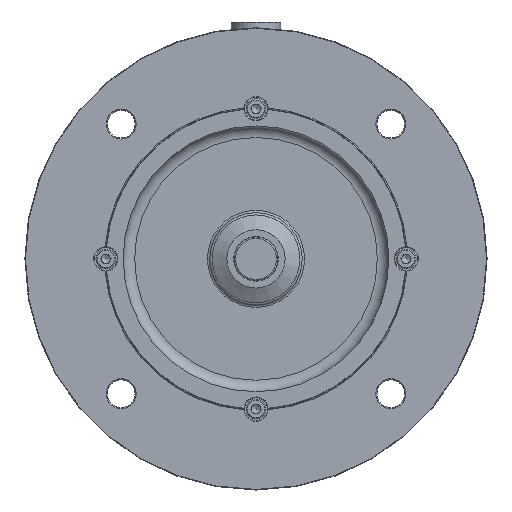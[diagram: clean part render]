
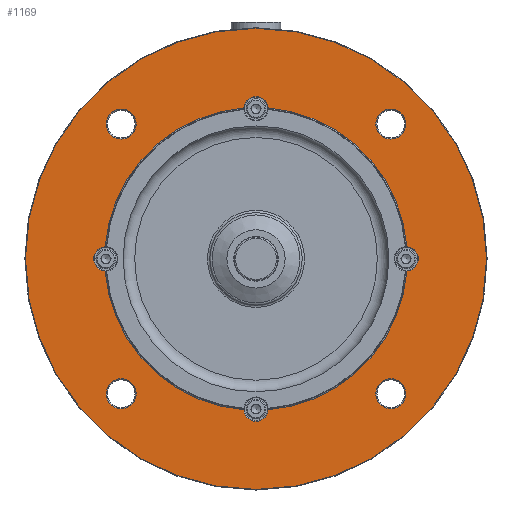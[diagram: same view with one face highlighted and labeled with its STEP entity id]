
A CAD part, front view. The second image highlights one B-rep face of the part: STEP entity #1169.
In plain terms, the highlighted planar face has unit normal (0, -1, 0).
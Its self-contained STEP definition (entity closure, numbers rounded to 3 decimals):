
#871=FACE_BOUND('',#1800,.T.);
#872=FACE_BOUND('',#1801,.T.);
#873=FACE_BOUND('',#1802,.T.);
#874=FACE_BOUND('',#1803,.T.);
#875=FACE_BOUND('',#1804,.T.);
#1169=ADVANCED_FACE('',(#1568,#871,#872,#873,#874,#875),#1470,.T.);
#1470=PLANE('',#4762);
#1568=FACE_OUTER_BOUND('',#1799,.T.);
#1799=EDGE_LOOP('',(#2336));
#1800=EDGE_LOOP('',(#2337));
#1801=EDGE_LOOP('',(#2338));
#1802=EDGE_LOOP('',(#2339));
#1803=EDGE_LOOP('',(#2340));
#1804=EDGE_LOOP('',(#2341,#2342,#2343,#2344,#2345,#2346,#2347,#2348));
#2336=ORIENTED_EDGE('',*,*,#3838,.T.);
#2337=ORIENTED_EDGE('',*,*,#3839,.T.);
#2338=ORIENTED_EDGE('',*,*,#3840,.T.);
#2339=ORIENTED_EDGE('',*,*,#3841,.T.);
#2340=ORIENTED_EDGE('',*,*,#3842,.T.);
#2341=ORIENTED_EDGE('',*,*,#3843,.T.);
#2342=ORIENTED_EDGE('',*,*,#3844,.T.);
#2343=ORIENTED_EDGE('',*,*,#3845,.T.);
#2344=ORIENTED_EDGE('',*,*,#3846,.T.);
#2345=ORIENTED_EDGE('',*,*,#3847,.T.);
#2346=ORIENTED_EDGE('',*,*,#3848,.T.);
#2347=ORIENTED_EDGE('',*,*,#3849,.T.);
#2348=ORIENTED_EDGE('',*,*,#3850,.T.);
#3414=VERTEX_POINT('',#7052);
#3415=VERTEX_POINT('',#7054);
#3416=VERTEX_POINT('',#7056);
#3417=VERTEX_POINT('',#7058);
#3418=VERTEX_POINT('',#7060);
#3419=VERTEX_POINT('',#7062);
#3420=VERTEX_POINT('',#7063);
#3421=VERTEX_POINT('',#7065);
#3422=VERTEX_POINT('',#7067);
#3423=VERTEX_POINT('',#7069);
#3424=VERTEX_POINT('',#7071);
#3425=VERTEX_POINT('',#7073);
#3426=VERTEX_POINT('',#7075);
#3838=EDGE_CURVE('',#3414,#3414,#4367,.T.);
#3839=EDGE_CURVE('',#3415,#3415,#4368,.T.);
#3840=EDGE_CURVE('',#3416,#3416,#4369,.T.);
#3841=EDGE_CURVE('',#3417,#3417,#4370,.T.);
#3842=EDGE_CURVE('',#3418,#3418,#4371,.T.);
#3843=EDGE_CURVE('',#3419,#3420,#4372,.T.);
#3844=EDGE_CURVE('',#3420,#3421,#4373,.T.);
#3845=EDGE_CURVE('',#3421,#3422,#4374,.T.);
#3846=EDGE_CURVE('',#3422,#3423,#4375,.T.);
#3847=EDGE_CURVE('',#3423,#3424,#4376,.T.);
#3848=EDGE_CURVE('',#3424,#3425,#4377,.T.);
#3849=EDGE_CURVE('',#3425,#3426,#4378,.T.);
#3850=EDGE_CURVE('',#3426,#3419,#4379,.T.);
#4367=CIRCLE('',#4749,99.75);
#4368=CIRCLE('',#4750,6.5);
#4369=CIRCLE('',#4751,6.5);
#4370=CIRCLE('',#4752,6.5);
#4371=CIRCLE('',#4753,6.5);
#4372=CIRCLE('',#4754,5.25);
#4373=CIRCLE('',#4755,65.5);
#4374=CIRCLE('',#4756,5.25);
#4375=CIRCLE('',#4757,65.5);
#4376=CIRCLE('',#4758,5.25);
#4377=CIRCLE('',#4759,65.5);
#4378=CIRCLE('',#4760,5.25);
#4379=CIRCLE('',#4761,65.5);
#4749=AXIS2_PLACEMENT_3D('',#7051,#5490,#5491);
#4750=AXIS2_PLACEMENT_3D('',#7053,#5492,#5493);
#4751=AXIS2_PLACEMENT_3D('',#7055,#5494,#5495);
#4752=AXIS2_PLACEMENT_3D('',#7057,#5496,#5497);
#4753=AXIS2_PLACEMENT_3D('',#7059,#5498,#5499);
#4754=AXIS2_PLACEMENT_3D('',#7061,#5500,#5501);
#4755=AXIS2_PLACEMENT_3D('',#7064,#5502,#5503);
#4756=AXIS2_PLACEMENT_3D('',#7066,#5504,#5505);
#4757=AXIS2_PLACEMENT_3D('',#7068,#5506,#5507);
#4758=AXIS2_PLACEMENT_3D('',#7070,#5508,#5509);
#4759=AXIS2_PLACEMENT_3D('',#7072,#5510,#5511);
#4760=AXIS2_PLACEMENT_3D('',#7074,#5512,#5513);
#4761=AXIS2_PLACEMENT_3D('',#7076,#5514,#5515);
#4762=AXIS2_PLACEMENT_3D('',#7077,#5516,#5517);
#5490=DIRECTION('',(0.,-1.,0.));
#5491=DIRECTION('',(0.,0.,-1.));
#5492=DIRECTION('',(0.,1.,0.));
#5493=DIRECTION('',(0.,0.,-1.));
#5494=DIRECTION('',(0.,1.,0.));
#5495=DIRECTION('',(0.,0.,-1.));
#5496=DIRECTION('',(0.,1.,0.));
#5497=DIRECTION('',(0.,0.,-1.));
#5498=DIRECTION('',(0.,1.,0.));
#5499=DIRECTION('',(0.,0.,-1.));
#5500=DIRECTION('',(0.,1.,0.));
#5501=DIRECTION('',(0.,0.,-1.));
#5502=DIRECTION('',(0.,1.,0.));
#5503=DIRECTION('',(0.,0.,-1.));
#5504=DIRECTION('',(0.,1.,0.));
#5505=DIRECTION('',(0.,0.,-1.));
#5506=DIRECTION('',(0.,1.,0.));
#5507=DIRECTION('',(0.,0.,-1.));
#5508=DIRECTION('',(0.,1.,0.));
#5509=DIRECTION('',(0.,0.,-1.));
#5510=DIRECTION('',(0.,1.,0.));
#5511=DIRECTION('',(0.,0.,-1.));
#5512=DIRECTION('',(0.,1.,0.));
#5513=DIRECTION('',(0.,0.,-1.));
#5514=DIRECTION('',(0.,1.,0.));
#5515=DIRECTION('',(0.,0.,-1.));
#5516=DIRECTION('',(0.,-1.,0.));
#5517=DIRECTION('',(0.,0.,-1.));
#7051=CARTESIAN_POINT('',(0.,0.,0.));
#7052=CARTESIAN_POINT('',(0.,0.,-99.75));
#7053=CARTESIAN_POINT('',(58.336,0.,58.336));
#7054=CARTESIAN_POINT('',(58.336,0.,51.836));
#7055=CARTESIAN_POINT('',(58.336,0.,-58.336));
#7056=CARTESIAN_POINT('',(58.336,0.,-64.836));
#7057=CARTESIAN_POINT('',(-58.336,0.,-58.336));
#7058=CARTESIAN_POINT('',(-58.336,0.,-64.836));
#7059=CARTESIAN_POINT('',(-58.336,0.,58.336));
#7060=CARTESIAN_POINT('',(-58.336,0.,51.836));
#7061=CARTESIAN_POINT('',(65.,0.,0.));
#7062=CARTESIAN_POINT('',(65.29,0.,5.242));
#7063=CARTESIAN_POINT('',(65.29,0.,-5.242));
#7064=CARTESIAN_POINT('',(0.,0.,0.));
#7065=CARTESIAN_POINT('',(5.242,0.,-65.29));
#7066=CARTESIAN_POINT('',(0.,0.,-65.));
#7067=CARTESIAN_POINT('',(-5.242,0.,-65.29));
#7068=CARTESIAN_POINT('',(0.,0.,0.));
#7069=CARTESIAN_POINT('',(-65.29,0.,-5.242));
#7070=CARTESIAN_POINT('',(-65.,0.,0.));
#7071=CARTESIAN_POINT('',(-65.29,0.,5.242));
#7072=CARTESIAN_POINT('',(0.,0.,0.));
#7073=CARTESIAN_POINT('',(-5.242,0.,65.29));
#7074=CARTESIAN_POINT('',(0.,0.,65.));
#7075=CARTESIAN_POINT('',(5.242,0.,65.29));
#7076=CARTESIAN_POINT('',(0.,0.,0.));
#7077=CARTESIAN_POINT('',(0.,0.,0.));
